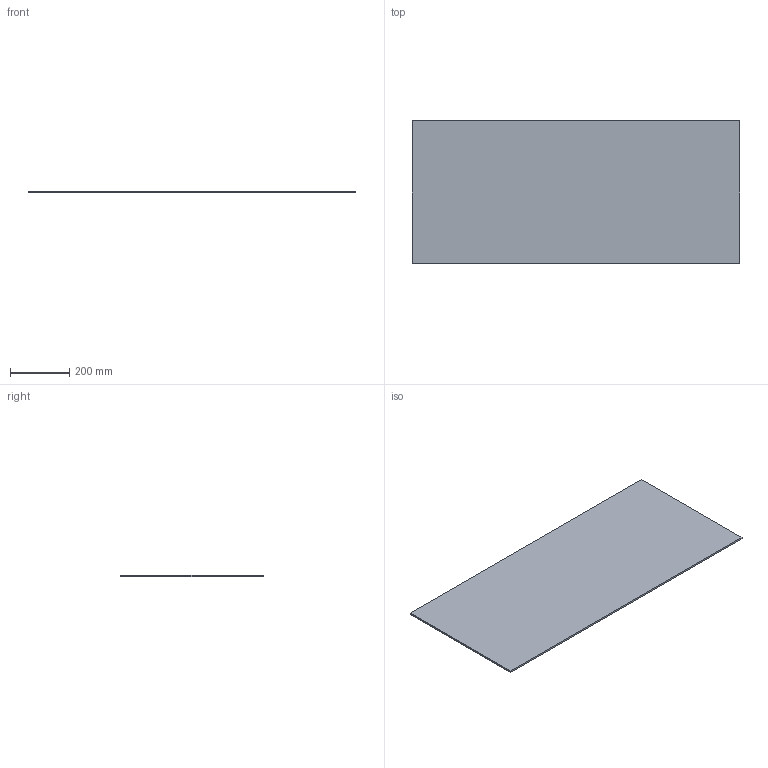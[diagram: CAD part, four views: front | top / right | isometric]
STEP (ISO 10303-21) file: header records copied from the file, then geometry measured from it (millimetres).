
FILE_DESCRIPTION (( 'STEP AP214' ), '1' );
FILE_NAME ('Lochblech_NL500_KAB1200_19.step', '2010-10-11T13:38:39', ( 'grass' ), ( '' ), 'SwSTEP 2.0', 'SolidWorks 2010', '' );
FILE_SCHEMA (( 'AUTOMOTIVE_DESIGN' ));
Length unit declared in the file: millimetre
Products named in the file (1): Lochblech_NL500_KAB1200_19
Bounding box: 1102 x 479 x 6 mm (x, y, z)
Volume: 3167148 mm3; surface area: 1074688 mm2
Topology: 1 solids, 1 shells, 6 faces, 12 edges, 8 vertices
Faces by surface type: plane 6
Entity records: 190 total; most frequent: CARTESIAN_POINT 27, DIRECTION 26, ORIENTED_EDGE 24, EDGE_CURVE 12, LINE 12, VECTOR 12, VERTEX_POINT 8, AXIS2_PLACEMENT_3D 7
